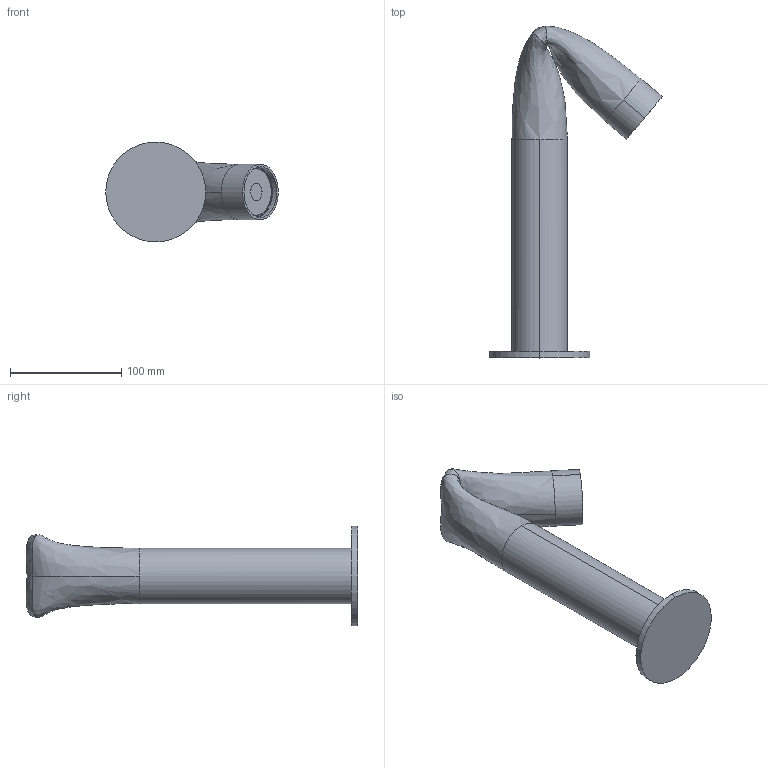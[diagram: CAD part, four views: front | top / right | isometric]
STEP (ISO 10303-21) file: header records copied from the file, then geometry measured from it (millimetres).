
FILE_DESCRIPTION (( 'STEP AP203' ), '1' );
FILE_NAME ('LTBENDER.STEP', '2025-06-20T09:05:52', ( '' ), ( '' ), 'SwSTEP 2.0', 'SolidWorks 2024', '' );
FILE_SCHEMA (( 'CONFIG_CONTROL_DESIGN' ));
Length unit declared in the file: millimetre
Products named in the file (1): LTBENDER
Bounding box: 155.36 x 298.96 x 90 mm (x, y, z)
Surface area: 83395.8 mm2 (no closed solid volume)
Topology: 0 solids, 3 shells, 368 faces, 966 edges, 577 vertices
Faces by surface type: bspline 180, plane 55, cylinder 52, sphere 31, cone 26, torus 24
Entity records: 27079 total; most frequent: CARTESIAN_POINT 20000, ORIENTED_EDGE 1858, EDGE_CURVE 938, DIRECTION 765, B_SPLINE_CURVE_WITH_KNOTS 673, VERTEX_POINT 577, EDGE_LOOP 372, ADVANCED_FACE 368
